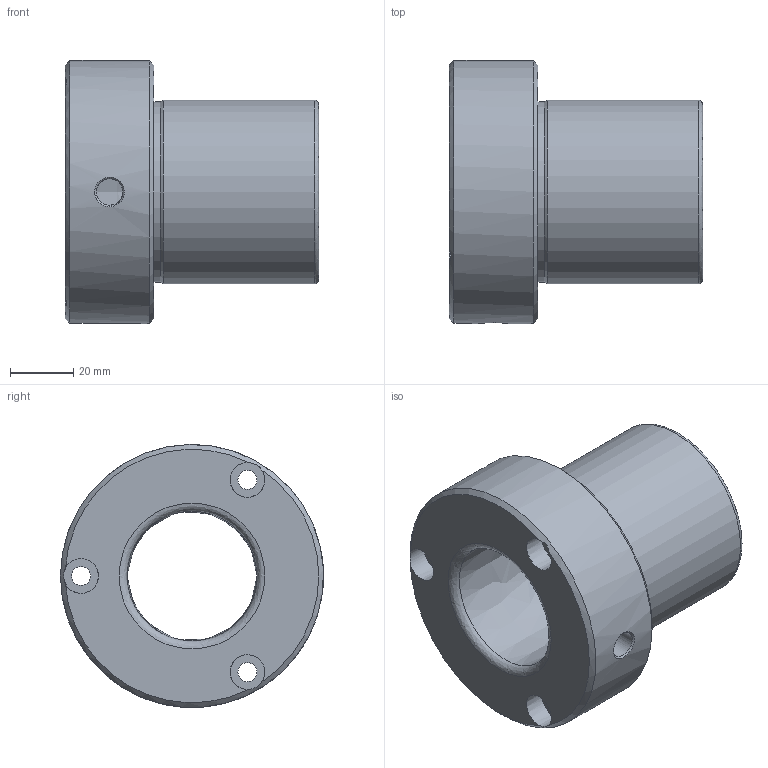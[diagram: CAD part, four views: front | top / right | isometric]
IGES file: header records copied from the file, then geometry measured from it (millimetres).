
Global section: file name: B541.ipt; native system: Autodesk Inventor 2021; preprocessor: unknown; author: SM; date: 20211221.123820; units: millimetre
Bounding box: 80 x 83 x 83 mm (x, y, z)
Volume: 177233.2 mm3; surface area: 36729.4 mm2
Topology: 1 solids, 1 shells, 24 faces, 70 edges, 48 vertices
Faces by surface type: revolution 11, plane 6, cylinder 3, cone 3, bspline 1
Full cylindrical faces by diameter (mm): 57 x1, 58 x1, 83 x1
